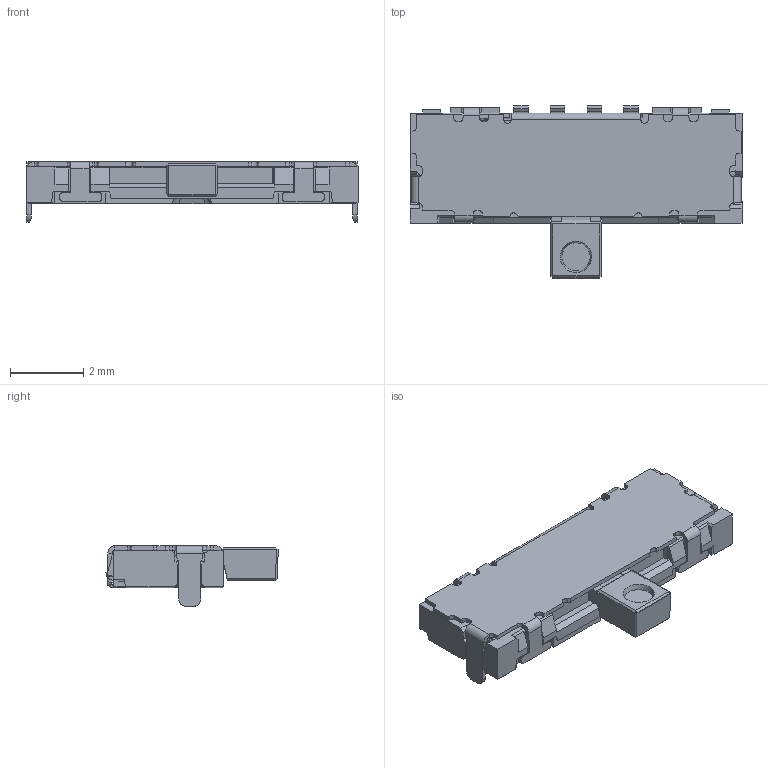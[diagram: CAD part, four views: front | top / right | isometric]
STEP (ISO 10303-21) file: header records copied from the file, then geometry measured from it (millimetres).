
FILE_DESCRIPTION (( 'STEP AP214' ), '1' );
FILE_NAME ('SSAG130100.STEP', '2011-04-22T06:43:54', ( ' ' ), ( '' ), 'SwSTEP 2.0', 'SolidWorks 2007', '' );
FILE_SCHEMA (( 'AUTOMOTIVE_DESIGN' ));
Length unit declared in the file: millimetre
Products named in the file (1): SSAG130100
Bounding box: 9.05 x 4.7 x 1.65 mm (x, y, z)
Volume: 30.5 mm3; surface area: 122 mm2
Topology: 1 solids, 1 shells, 702 faces, 1944 edges, 1255 vertices
Faces by surface type: plane 530, cylinder 150, cone 20, bspline 2
Entity records: 30160 total; most frequent: CARTESIAN_POINT 5165, ORIENTED_EDGE 3888, DIRECTION 3143, EDGE_CURVE 1944, VECTOR 1467, LINE 1467, VERTEX_POINT 1255, AXIS2_PLACEMENT_3D 838
